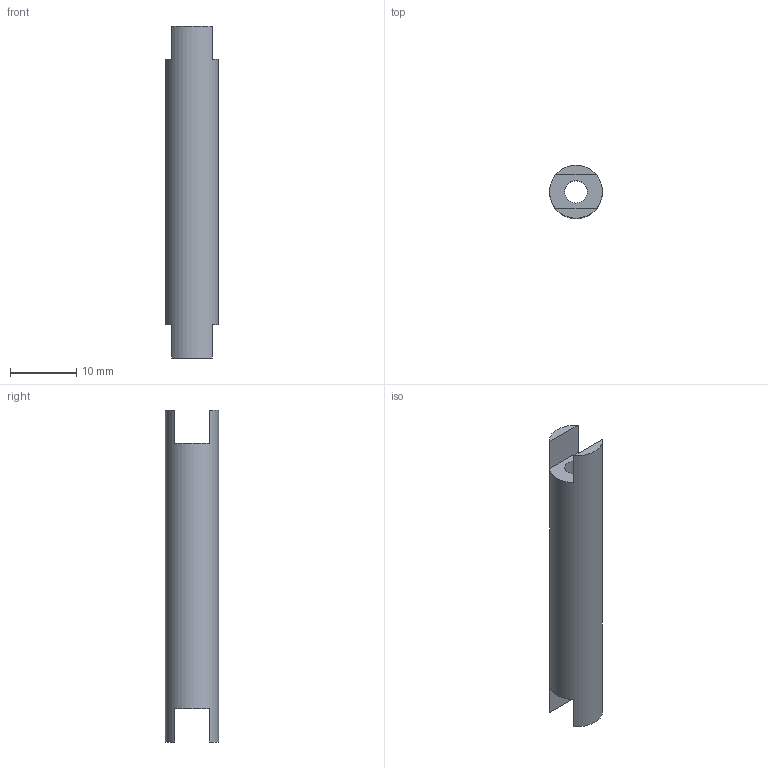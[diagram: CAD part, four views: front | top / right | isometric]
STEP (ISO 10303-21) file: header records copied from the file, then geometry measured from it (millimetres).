
FILE_DESCRIPTION(/* description */ (''),/* implementation_level */ '2;1');
FILE_NAME(/* name */ '20231129_Fertigung_Kugelhahn-Wellenkupplung_Adapter.step',/* time_stamp */ '2023-12-05T15:24:26+01:00',/* author */ (''),/* organization */ (''),/* preprocessor_version */ 'ST-DEVELOPER v20',/* originating_system */ 'Autodesk Translation Framework v12.14.0.127',/* authorisation */ '');
FILE_SCHEMA (('AUTOMOTIVE_DESIGN { 1 0 10303 214 3 1 1 }'));
Length unit declared in the file: millimetre
Products named in the file (1): 20231129_Fertigung_Kugelhahn-Wellenkupplung_Adapter
Bounding box: 7.98 x 8 x 50 mm (x, y, z)
Volume: 1765.6 mm3; surface area: 1774.6 mm2
Topology: 1 solids, 1 shells, 12 faces, 30 edges, 20 vertices
Faces by surface type: plane 10, cylinder 2
Full cylindrical faces by diameter (mm): 3.4 x1, 8 x1
Entity records: 403 total; most frequent: DIRECTION 68, CARTESIAN_POINT 63, ORIENTED_EDGE 60, EDGE_CURVE 30, AXIS2_PLACEMENT_3D 25, VERTEX_POINT 20, LINE 18, VECTOR 18
